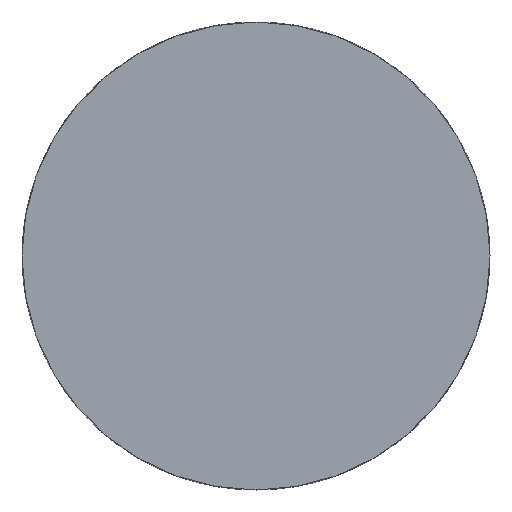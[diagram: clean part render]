
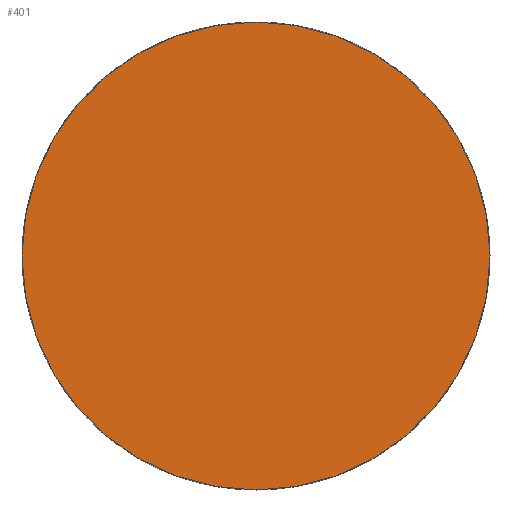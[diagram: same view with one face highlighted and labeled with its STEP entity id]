
A CAD part, left-side view. The second image highlights one B-rep face of the part: STEP entity #401.
In plain terms, the highlighted planar face has unit normal (-1, 0, 0).
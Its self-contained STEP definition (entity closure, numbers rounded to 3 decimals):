
#401 = ADVANCED_FACE( '', ( #924 ), #925, .F. );
#924 = FACE_OUTER_BOUND( '', #1565, .T. );
#925 = PLANE( '', #1566 );
#1565 = EDGE_LOOP( '', ( #2955 ) );
#1566 = AXIS2_PLACEMENT_3D( '', #2956, #2957, #2958 );
#2955 = ORIENTED_EDGE( '', *, *, #4384, .F. );
#2956 = CARTESIAN_POINT( '', ( 0., 0., 0. ) );
#2957 = DIRECTION( '', ( 1., 0., 0. ) );
#2958 = DIRECTION( '', ( 0., 0., -1. ) );
#4384 = EDGE_CURVE( '', #5505, #5505, #5506, .T. );
#5505 = VERTEX_POINT( '', #6916 );
#5506 = CIRCLE( '', #6917, 12.035 );
#6916 = CARTESIAN_POINT( '', ( 0., 0., -12.035 ) );
#6917 = AXIS2_PLACEMENT_3D( '', #8408, #8409, #8410 );
#8408 = CARTESIAN_POINT( '', ( 0., 0., 0. ) );
#8409 = DIRECTION( '', ( 1., 0., 0. ) );
#8410 = DIRECTION( '', ( 0., 0., -1. ) );
